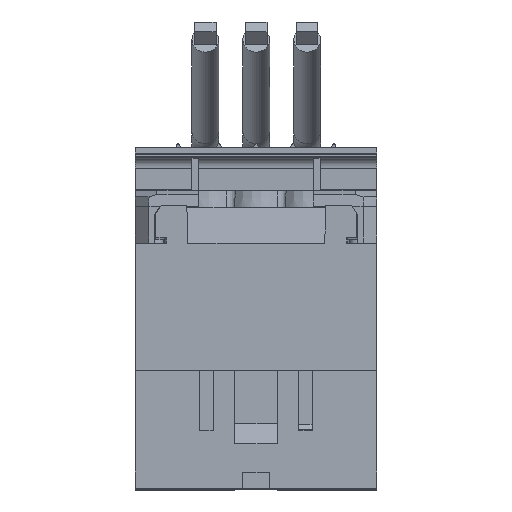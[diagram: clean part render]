
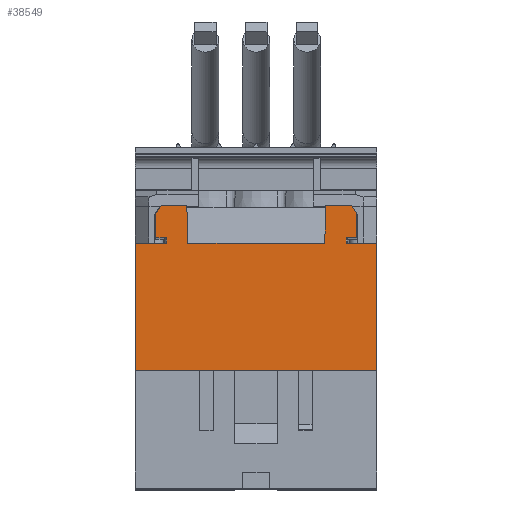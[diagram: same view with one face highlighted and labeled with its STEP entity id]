
A CAD part, top view. The second image highlights one B-rep face of the part: STEP entity #38549.
In plain terms, the highlighted planar face has unit normal (0, 0, 1).
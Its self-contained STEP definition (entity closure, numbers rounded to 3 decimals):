
#149 = CARTESIAN_POINT ( 'NONE',  ( -18.695, 20.2, 200.5 ) ) ;
#347 = DIRECTION ( 'NONE',  ( 1., 0., 0. ) ) ;
#1660 = DIRECTION ( 'NONE',  ( -1., 0., 0. ) ) ;
#4000 = CARTESIAN_POINT ( 'NONE',  ( -12.904, 26.2, 200.5 ) ) ;
#4324 = CARTESIAN_POINT ( 'NONE',  ( -29.634, 26.2, 200.5 ) ) ;
#6283 = CARTESIAN_POINT ( 'NONE',  ( 12.831, 19.2, 200.5 ) ) ;
#6303 = CARTESIAN_POINT ( 'NONE',  ( -12.904, 26.2, 200.5 ) ) ;
#7118 = VERTEX_POINT ( 'NONE', #59693 ) ;
#7447 = LINE ( 'NONE', #27334, #32512 ) ;
#7867 = DIRECTION ( 'NONE',  ( -1., 0., 0. ) ) ;
#7878 = VERTEX_POINT ( 'NONE', #48405 ) ;
#8006 = VERTEX_POINT ( 'NONE', #60199 ) ;
#8344 = EDGE_CURVE ( 'NONE', #37006, #11161, #42554, .T. ) ;
#8353 = CARTESIAN_POINT ( 'NONE',  ( 17.805, 26.2, 200.5 ) ) ;
#8616 = VECTOR ( 'NONE', #14088, 1000. ) ;
#8795 = VECTOR ( 'NONE', #7867, 1000. ) ;
#9519 = LINE ( 'NONE', #41433, #32271 ) ;
#9521 = ORIENTED_EDGE ( 'NONE', *, *, #45750, .F. ) ;
#9584 = DIRECTION ( 'NONE',  ( 0., 1., 0. ) ) ;
#10457 = VERTEX_POINT ( 'NONE', #49151 ) ;
#10458 = DIRECTION ( 'NONE',  ( 0., -1., 0. ) ) ;
#11161 = VERTEX_POINT ( 'NONE', #60463 ) ;
#13208 = EDGE_CURVE ( 'NONE', #7118, #56982, #24033, .T. ) ;
#13860 = ORIENTED_EDGE ( 'NONE', *, *, #34243, .T. ) ;
#13960 = DIRECTION ( 'NONE',  ( -1., 0., 0. ) ) ;
#14088 = DIRECTION ( 'NONE',  ( 0., 1., 0. ) ) ;
#14200 = DIRECTION ( 'NONE',  ( -1., 0., 0. ) ) ;
#14447 = ORIENTED_EDGE ( 'NONE', *, *, #56621, .F. ) ;
#14970 = CARTESIAN_POINT ( 'NONE',  ( 16.805, 20.2, 200.5 ) ) ;
#15073 = ORIENTED_EDGE ( 'NONE', *, *, #20151, .F. ) ;
#15435 = EDGE_CURVE ( 'NONE', #33705, #35633, #52688, .T. ) ;
#15975 = ORIENTED_EDGE ( 'NONE', *, *, #25972, .F. ) ;
#16834 = DIRECTION ( 'NONE',  ( 1., 0., 0. ) ) ;
#18618 = CARTESIAN_POINT ( 'NONE',  ( -16.695, 20.2, 200.5 ) ) ;
#18809 = ORIENTED_EDGE ( 'NONE', *, *, #34663, .F. ) ;
#19099 = DIRECTION ( 'NONE',  ( 0.026, -1., 0. ) ) ;
#19809 = ORIENTED_EDGE ( 'NONE', *, *, #33974, .F. ) ;
#20151 = EDGE_CURVE ( 'NONE', #8006, #7878, #61893, .T. ) ;
#20678 = VECTOR ( 'NONE', #63893, 1000. ) ;
#20945 = ORIENTED_EDGE ( 'NONE', *, *, #8344, .F. ) ;
#21852 = EDGE_CURVE ( 'NONE', #10457, #41258, #41278, .T. ) ;
#22156 = LINE ( 'NONE', #18618, #8795 ) ;
#22929 = VECTOR ( 'NONE', #38302, 1000. ) ;
#22963 = DIRECTION ( 'NONE',  ( 0., -1., 0. ) ) ;
#23606 = FACE_OUTER_BOUND ( 'NONE', #34500, .T. ) ;
#24033 = LINE ( 'NONE', #58378, #56065 ) ;
#24542 = CARTESIAN_POINT ( 'NONE',  ( -22.5, 19.2, 200.5 ) ) ;
#25557 = ORIENTED_EDGE ( 'NONE', *, *, #42786, .F. ) ;
#25652 = AXIS2_PLACEMENT_3D ( 'NONE', #53465, #43144, #49080 ) ;
#25860 = EDGE_CURVE ( 'NONE', #52993, #37006, #58273, .T. ) ;
#25972 = EDGE_CURVE ( 'NONE', #35603, #51286, #30034, .T. ) ;
#26242 = VECTOR ( 'NONE', #19099, 1000. ) ;
#26386 = CARTESIAN_POINT ( 'NONE',  ( 12.805, 18.2, 200.5 ) ) ;
#26644 = EDGE_CURVE ( 'NONE', #51286, #33705, #63603, .T. ) ;
#27242 = VECTOR ( 'NONE', #9584, 1000. ) ;
#27334 = CARTESIAN_POINT ( 'NONE',  ( 224.594, -4.5, 200.5 ) ) ;
#27766 = ORIENTED_EDGE ( 'NONE', *, *, #26644, .F. ) ;
#28286 = EDGE_CURVE ( 'NONE', #58784, #57363, #54351, .T. ) ;
#28965 = CARTESIAN_POINT ( 'NONE',  ( -16.695, 26.2, 200.5 ) ) ;
#29309 = VECTOR ( 'NONE', #10458, 1000. ) ;
#29388 = EDGE_CURVE ( 'NONE', #7878, #52993, #22156, .T. ) ;
#29508 = VECTOR ( 'NONE', #31153, 1000. ) ;
#29688 = VERTEX_POINT ( 'NONE', #6283 ) ;
#30034 = LINE ( 'NONE', #4324, #49588 ) ;
#30241 = VECTOR ( 'NONE', #14200, 1000. ) ;
#30774 = VECTOR ( 'NONE', #42662, 1000. ) ;
#31153 = DIRECTION ( 'NONE',  ( 0.026, 1., 0. ) ) ;
#31632 = ORIENTED_EDGE ( 'NONE', *, *, #25860, .F. ) ;
#32271 = VECTOR ( 'NONE', #1660, 1000. ) ;
#32512 = VECTOR ( 'NONE', #42601, 1000. ) ;
#32621 = LINE ( 'NONE', #44312, #61583 ) ;
#33472 = CARTESIAN_POINT ( 'NONE',  ( 18.805, 24.7, 200.5 ) ) ;
#33705 = VERTEX_POINT ( 'NONE', #33472 ) ;
#33974 = EDGE_CURVE ( 'NONE', #11161, #39012, #51430, .T. ) ;
#34227 = CARTESIAN_POINT ( 'NONE',  ( -18.695, 24.7, 200.5 ) ) ;
#34243 = EDGE_CURVE ( 'NONE', #7118, #57363, #32621, .T. ) ;
#34500 = EDGE_LOOP ( 'NONE', ( #15073, #48610, #38257, #9521, #63811, #13860, #48751, #18809, #52046, #27766, #15975, #25557, #55148, #14447, #19809, #20945, #31632, #47555 ) ) ;
#34663 = EDGE_CURVE ( 'NONE', #35633, #58784, #44264, .T. ) ;
#34984 = VECTOR ( 'NONE', #16834, 1000. ) ;
#35357 = CARTESIAN_POINT ( 'NONE',  ( 16.805, 19.2, 200.5 ) ) ;
#35603 = VERTEX_POINT ( 'NONE', #40889 ) ;
#35633 = VERTEX_POINT ( 'NONE', #50974 ) ;
#36310 = CARTESIAN_POINT ( 'NONE',  ( 16.805, 20.2, 200.5 ) ) ;
#36714 = CARTESIAN_POINT ( 'NONE',  ( 22.5, -4.5, 200.5 ) ) ;
#37006 = VERTEX_POINT ( 'NONE', #34227 ) ;
#37029 = CARTESIAN_POINT ( 'NONE',  ( -22.5, 19.2, 200.5 ) ) ;
#38257 = ORIENTED_EDGE ( 'NONE', *, *, #21852, .F. ) ;
#38302 = DIRECTION ( 'NONE',  ( 0.555, -0.832, 0. ) ) ;
#38549 = ADVANCED_FACE ( 'NONE', ( #23606 ), #48429, .F. ) ;
#38871 = CARTESIAN_POINT ( 'NONE',  ( 224.594, 19.2, 200.5 ) ) ;
#39012 = VERTEX_POINT ( 'NONE', #6303 ) ;
#40404 = VERTEX_POINT ( 'NONE', #60154 ) ;
#40676 = DIRECTION ( 'NONE',  ( -1., 0., 0. ) ) ;
#40889 = CARTESIAN_POINT ( 'NONE',  ( 13.014, 26.2, 200.5 ) ) ;
#41258 = VERTEX_POINT ( 'NONE', #37029 ) ;
#41278 = LINE ( 'NONE', #24542, #27242 ) ;
#41433 = CARTESIAN_POINT ( 'NONE',  ( 224.594, 19.2, 200.5 ) ) ;
#42554 = LINE ( 'NONE', #43671, #20678 ) ;
#42601 = DIRECTION ( 'NONE',  ( -1., 0., 0. ) ) ;
#42662 = DIRECTION ( 'NONE',  ( 0., -1., 0. ) ) ;
#42768 = LINE ( 'NONE', #26386, #29508 ) ;
#42786 = EDGE_CURVE ( 'NONE', #29688, #35603, #42768, .T. ) ;
#43144 = DIRECTION ( 'NONE',  ( 0., 0., -1. ) ) ;
#43671 = CARTESIAN_POINT ( 'NONE',  ( -18.695, 24.7, 200.5 ) ) ;
#44264 = LINE ( 'NONE', #14970, #53733 ) ;
#44312 = CARTESIAN_POINT ( 'NONE',  ( 224.594, 19.2, 200.5 ) ) ;
#45750 = EDGE_CURVE ( 'NONE', #56982, #10457, #7447, .T. ) ;
#47555 = ORIENTED_EDGE ( 'NONE', *, *, #29388, .F. ) ;
#48218 = EDGE_CURVE ( 'NONE', #29688, #40404, #9519, .T. ) ;
#48405 = CARTESIAN_POINT ( 'NONE',  ( -16.695, 20.2, 200.5 ) ) ;
#48429 = PLANE ( 'NONE',  #25652 ) ;
#48610 = ORIENTED_EDGE ( 'NONE', *, *, #55605, .T. ) ;
#48623 = CARTESIAN_POINT ( 'NONE',  ( 17.805, 26.2, 200.5 ) ) ;
#48751 = ORIENTED_EDGE ( 'NONE', *, *, #28286, .F. ) ;
#49080 = DIRECTION ( 'NONE',  ( 0., -1., 0. ) ) ;
#49151 = CARTESIAN_POINT ( 'NONE',  ( -22.5, -4.5, 200.5 ) ) ;
#49588 = VECTOR ( 'NONE', #347, 1000. ) ;
#50974 = CARTESIAN_POINT ( 'NONE',  ( 18.805, 20.2, 200.5 ) ) ;
#51286 = VERTEX_POINT ( 'NONE', #8353 ) ;
#51430 = LINE ( 'NONE', #56663, #34984 ) ;
#52046 = ORIENTED_EDGE ( 'NONE', *, *, #15435, .F. ) ;
#52688 = LINE ( 'NONE', #57364, #30774 ) ;
#52993 = VERTEX_POINT ( 'NONE', #149 ) ;
#53465 = CARTESIAN_POINT ( 'NONE',  ( 20.355, 26.2, 200.5 ) ) ;
#53733 = VECTOR ( 'NONE', #40676, 1000. ) ;
#54351 = LINE ( 'NONE', #55557, #29309 ) ;
#55148 = ORIENTED_EDGE ( 'NONE', *, *, #48218, .T. ) ;
#55557 = CARTESIAN_POINT ( 'NONE',  ( 16.805, 26.2, 200.5 ) ) ;
#55605 = EDGE_CURVE ( 'NONE', #8006, #41258, #58435, .T. ) ;
#56065 = VECTOR ( 'NONE', #22963, 1000. ) ;
#56621 = EDGE_CURVE ( 'NONE', #39012, #40404, #64610, .T. ) ;
#56663 = CARTESIAN_POINT ( 'NONE',  ( -29.634, 26.2, 200.5 ) ) ;
#56982 = VERTEX_POINT ( 'NONE', #36714 ) ;
#57363 = VERTEX_POINT ( 'NONE', #35357 ) ;
#57364 = CARTESIAN_POINT ( 'NONE',  ( 18.805, 26.2, 200.5 ) ) ;
#58273 = LINE ( 'NONE', #62781, #59844 ) ;
#58378 = CARTESIAN_POINT ( 'NONE',  ( 22.5, 19.2, 200.5 ) ) ;
#58435 = LINE ( 'NONE', #38871, #30241 ) ;
#58784 = VERTEX_POINT ( 'NONE', #36310 ) ;
#59693 = CARTESIAN_POINT ( 'NONE',  ( 22.5, 19.2, 200.5 ) ) ;
#59844 = VECTOR ( 'NONE', #62558, 1000. ) ;
#60154 = CARTESIAN_POINT ( 'NONE',  ( -12.721, 19.2, 200.5 ) ) ;
#60199 = CARTESIAN_POINT ( 'NONE',  ( -16.695, 19.2, 200.5 ) ) ;
#60463 = CARTESIAN_POINT ( 'NONE',  ( -17.695, 26.2, 200.5 ) ) ;
#61583 = VECTOR ( 'NONE', #13960, 1000. ) ;
#61893 = LINE ( 'NONE', #28965, #8616 ) ;
#62558 = DIRECTION ( 'NONE',  ( 0., 1., 0. ) ) ;
#62781 = CARTESIAN_POINT ( 'NONE',  ( -18.695, 26.2, 200.5 ) ) ;
#63603 = LINE ( 'NONE', #48623, #22929 ) ;
#63811 = ORIENTED_EDGE ( 'NONE', *, *, #13208, .F. ) ;
#63893 = DIRECTION ( 'NONE',  ( 0.555, 0.832, 0. ) ) ;
#64610 = LINE ( 'NONE', #4000, #26242 ) ;
